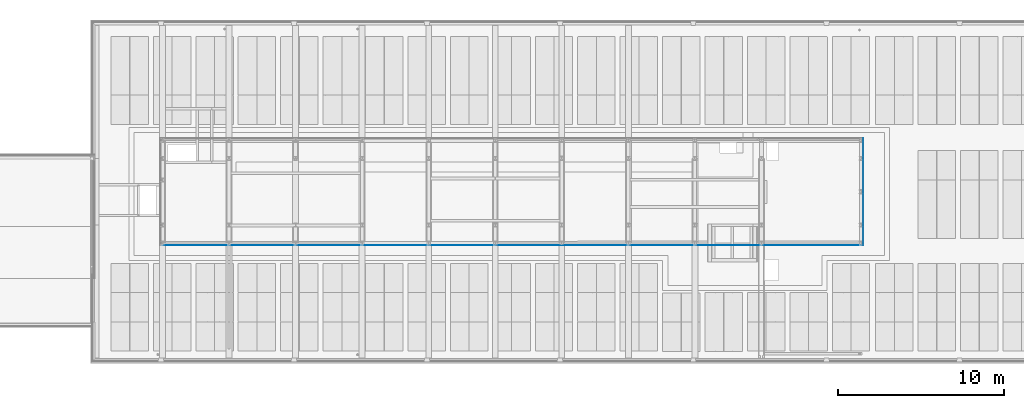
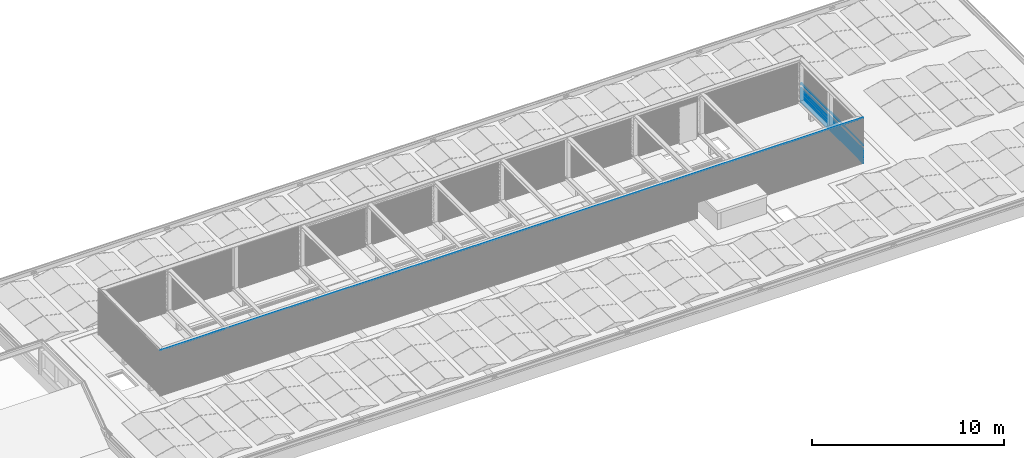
# One storey, part 37 of 63: 14 building element parts, 1 opening, 2 elements without a shape of their own.
"""IFC2X3 building model written with IfcOpenShell, lengths in millimetres."""

from ifc_helpers import new_model, entity, si_unit, converted_unit, derived_unit, money_unit, direction, frame, origin_with_axes, place, context, subcontext, project, spatial, faceted_brep, material, type_object, element, aggregate, save


model = new_model("IFC2X3")

# Units and contexts
model_context = context("Model", 3, precision=0.01, world=origin_with_axes(), true_north=direction((0.0, 1.0)))
body_context = subcontext(model_context, "Body", "Model", "MODEL_VIEW")
ifc_project = project(units=[si_unit("LENGTHUNIT", "METRE", prefix="MILLI"), si_unit("AREAUNIT", "SQUARE_METRE"), si_unit("VOLUMEUNIT", "CUBIC_METRE"), converted_unit("PLANEANGLEUNIT", "DEGREE", entity("IfcPlaneAngleMeasure", 0.0174532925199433), si_unit("PLANEANGLEUNIT", "RADIAN"), dimensions=[0, 0, 0, 0, 0, 0, 0]), money_unit("EUR"), converted_unit("TIMEUNIT", "Year", entity("IfcTimeMeasure", 31557600.0), si_unit("TIMEUNIT", "SECOND"), dimensions=[0, 0, 1, 0, 0, 0, 0]), si_unit("MASSUNIT", "GRAM", prefix="KILO"), si_unit("THERMODYNAMICTEMPERATUREUNIT", "DEGREE_CELSIUS"), si_unit("LUMINOUSINTENSITYUNIT", "LUMEN"), si_unit("ENERGYUNIT", "JOULE", prefix="MEGA"), derived_unit("THERMALCONDUCTANCEUNIT", [(si_unit("POWERUNIT", "WATT"), 1), (si_unit("LENGTHUNIT", "METRE"), -1), (si_unit("THERMODYNAMICTEMPERATUREUNIT", "KELVIN"), -1)]), derived_unit("SPECIFICHEATCAPACITYUNIT", [(si_unit("ENERGYUNIT", "JOULE"), 1), (si_unit("MASSUNIT", "GRAM", prefix="KILO"), -1), (si_unit("THERMODYNAMICTEMPERATUREUNIT", "KELVIN"), -1)]), derived_unit("MASSDENSITYUNIT", [(si_unit("MASSUNIT", "GRAM", prefix="KILO"), 1), (si_unit("VOLUMEUNIT", "CUBIC_METRE"), -1)])], contexts=[model_context])

# Site, building, storey
site_placement = place(None, origin_with_axes())
site = spatial("IfcSite", under=ifc_project, at=site_placement, Name="<site naam>", CompositionType="ELEMENT")
building_placement = place(site_placement, origin_with_axes())
building = spatial("IfcBuilding", under=site, at=building_placement, Name="<Naam gebouw>", CompositionType="ELEMENT")
storey_placement = place(building_placement, frame((0.0, 0.0, 12770.0), z_axis=(0.0, 0.0, 1.0), x_axis=(1.0, 0.0, 0.0)))
storey = spatial("IfcBuildingStorey", under=building, at=storey_placement, Name="04 4e verdieping", CompositionType="ELEMENT", Elevation=12770.0)

# Wall, opening, building element part
wall_type = type_object("IfcWallType", Name="Gevelbeplating golf 18 x 2900", PredefinedType="NOTDEFINED")
wall_1_placement = place(storey_placement, frame((15871.99992141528, 6781.999921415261, 299.9552842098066), z_axis=(0.0, 0.0, 1.0), x_axis=(1.0, 0.0, 0.0)))
wall_1 = element("IfcWall", 1, at=wall_1_placement, inside=storey, type_object=wall_type, Name="47_Binnenwand_Gevelbeplating")
opening_placement = place(wall_1_placement, frame((-15871.99992141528, -6781.999921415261, -13069.95528420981), z_axis=(0.0, 0.0, 1.0), x_axis=(1.0, 0.0, 0.0)))
element("IfcOpeningElement", 2, at=opening_placement, cuts=wall_1, Name="47_Opening_", context=body_context, shape_type="Brep", body=[
    faceted_brep([(48150.00001112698, 6763.99976424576, 12770.0), (48150.00001112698, 6763.99976424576, 14059.65145375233), (48150.00001112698, 6818.000000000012, 14059.65145375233), (48150.00001112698, 6818.000000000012, 12770.0), (51850.00001112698, 6763.99976424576, 12770.0), (51850.00001112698, 6763.99976424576, 14059.65145375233), (51850.00001112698, 6818.000000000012, 14059.65145375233), (51850.00001112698, 6818.000000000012, 12770.0)], [[[0, 1, 2, 3]], [[0, 4, 5, 1]], [[1, 5, 6, 2]], [[3, 2, 6, 7]], [[4, 0, 3, 7]], [[5, 4, 7, 6]]]),
])
ifc_material = material(Name="gevelafwerking type 3 - Aluminium RAL1036")
building_element_part_1_placement = place(wall_1_placement, origin_with_axes())
building_element_part_1 = element("IfcBuildingElementPart", 3, at=building_element_part_1_placement, material=ifc_material, Name="gevelafwerking type 3 - Aluminium RAL1036", context=body_context, shape_type="Brep", body=[
    faceted_brep([(42239.00027300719, 16.99991903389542, 2887.99998211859), (16.9998841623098, 16.99991903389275, 2887.99998211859), (16.9998841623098, 17.99992141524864, 2887.99998211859), (42239.00027300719, 17.99992141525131, 2887.99998211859), (42242.02378557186, 13.97637062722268, 2900.0), (13.97637159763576, 13.97637062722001, 2900.0), (13.97637159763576, 14.97643081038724, 2900.0), (42242.02378557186, 14.97643081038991, 2900.0)], [[[0, 1, 2, 3]], [[4, 5, 1, 0]], [[5, 6, 2, 1]], [[3, 2, 6, 7]], [[0, 3, 7, 4]], [[7, 6, 5, 4]]]),
])
aggregate(wall_1, [building_element_part_1])

# Wall, building element parts
wall_2_placement = place(storey_placement, frame((58128.00007858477, 6781.999921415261, 299.9552842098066), z_axis=(0.0, 0.0, 1.0), x_axis=(0.0, 1.0, 0.0)))
wall_2 = element("IfcWall", 4, at=wall_2_placement, inside=storey, type_object=wall_type, Name="47_Binnenwand_Gevelbeplating")
building_element_part_2_placement = place(wall_2_placement, origin_with_axes())
building_element_part_2 = element("IfcBuildingElementPart", 5, at=building_element_part_2_placement, material=ifc_material, Name="gevelafwerking type 3 - Aluminium RAL1036", context=body_context, shape_type="Brep", body=[
    faceted_brep([(1.000000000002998, 0.9999999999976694, 38.00000000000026), (1.000000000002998, 0.0, 38.00000000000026), (6436.000180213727, 0.0, 38.00001341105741), (6436.000180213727, 0.9999999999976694, 38.00001341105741), (3.116478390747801, 2.188229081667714, 27.8876744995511), (3.116478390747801, 3.116478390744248, 27.8876744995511), (3.340126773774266, 2.257358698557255, 27.56821013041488), (6433.742841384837, 2.257358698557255, 27.56821013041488), (6433.742841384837, 3.340126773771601, 27.56821013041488), (6433.81197030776, 3.116478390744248, 27.8876744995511), (9.041583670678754, 9.041583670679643, 19.42412115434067), (9.041583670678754, 8.209548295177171, 19.42412115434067), (9.398125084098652, 8.555252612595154, 18.95111073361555), (6427.444919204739, 8.555252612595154, 18.95111073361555), (6427.444919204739, 9.398125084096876, 18.95111073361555), (6427.790625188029, 9.041583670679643, 19.42412115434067), (15.62926287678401, 15.62926287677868, 10.68448868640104), (15.62926287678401, 14.54423229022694, 10.68448868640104), (15.70000052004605, 14.7751970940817, 10.36568676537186), (6421.224997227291, 14.7751970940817, 10.36568676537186), (6421.224997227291, 15.70000052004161, 10.36568676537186), (6421.455961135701, 15.62926287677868, 10.68448868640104), (18.00000000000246, 18.00000000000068, 0.0), (18.00000000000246, 16.99999761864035, 0.0), (6419.000198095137, 16.99999761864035, 0.0), (6419.000198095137, 18.00000000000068, 0.0)], [[[0, 1, 2, 3]], [[4, 1, 0, 5]], [[4, 6, 7, 2, 1]], [[3, 2, 7, 8, 9]], [[5, 0, 3, 9]], [[6, 4, 5, 10, 11]], [[11, 12, 13, 7, 6]], [[8, 7, 13, 14, 15]], [[10, 5, 9, 8, 15]], [[12, 11, 10, 16, 17]], [[17, 18, 19, 13, 12]], [[14, 13, 19, 20, 21]], [[16, 10, 15, 14, 21]], [[18, 17, 16, 22, 23]], [[18, 23, 24, 19]], [[20, 19, 24, 25]], [[22, 16, 21, 20, 25]], [[23, 22, 25, 24]]]),
])
building_element_part_3_placement = place(wall_2_placement, origin_with_axes())
building_element_part_3 = element("IfcBuildingElementPart", 6, at=building_element_part_3_placement, material=ifc_material, Name="gevelafwerking type 3 - Aluminium RAL1036", context=body_context, shape_type="Brep", body=[
    faceted_brep([(0.9999952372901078, 0.999995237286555, 189.9999999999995), (0.9999952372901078, -4.762711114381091e-06, 189.9999999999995), (6436.000175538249, -4.762711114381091e-06, 189.9999806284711), (6436.000175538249, 0.999995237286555, 189.9999806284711), (3.116473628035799, 2.188226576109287, 179.8876744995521), (3.116473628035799, 3.116473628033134, 179.8876744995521), (3.340114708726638, 2.25735393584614, 179.5682205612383), (6433.742841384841, 2.25735393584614, 179.5682205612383), (6433.742841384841, 3.340114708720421, 179.5682205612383), (6433.811972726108, 3.116473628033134, 179.8876744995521), (9.04157890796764, 8.209551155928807, 171.4241211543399), (9.04157890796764, 9.041578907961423, 171.4241211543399), (9.39811245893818, 8.55524784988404, 170.9511211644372), (6427.444919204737, 8.55524784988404, 170.9511211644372), (6427.790617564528, 9.041578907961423, 171.4241211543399), (6427.444919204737, 9.398112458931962, 170.9511211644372), (15.62925811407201, 15.62925811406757, 162.6844886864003), (15.62925811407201, 14.54423508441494, 162.6844886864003), (15.69999344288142, 14.77519233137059, 162.3656971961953), (6421.224997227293, 14.77519233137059, 162.3656971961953), (6421.455953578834, 15.62925811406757, 162.6844886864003), (6421.224997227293, 15.69999344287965, 162.3656971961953), (17.99999523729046, 17.99999523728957, 151.9999999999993), (17.99999523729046, 16.99999285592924, 151.9999999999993), (6419.000198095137, 16.99999285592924, 152.0000104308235), (6419.000198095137, 17.99999523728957, 152.0000104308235)], [[[0, 1, 2, 3]], [[4, 1, 0, 5]], [[4, 6, 7, 2, 1]], [[8, 9, 3, 2, 7]], [[5, 0, 3, 9]], [[10, 6, 4, 5, 11]], [[10, 12, 13, 7, 6]], [[11, 5, 9, 8, 14]], [[15, 14, 8, 7, 13]], [[12, 10, 11, 16, 17]], [[17, 18, 19, 13, 12]], [[16, 11, 14, 15, 20]], [[21, 20, 15, 13, 19]], [[18, 17, 16, 22, 23]], [[18, 23, 24, 19]], [[22, 16, 20, 21, 25]], [[24, 25, 21, 19]], [[23, 22, 25, 24]]]),
])
building_element_part_4_placement = place(wall_2_placement, origin_with_axes())
building_element_part_4 = element("IfcBuildingElementPart", 7, at=building_element_part_4_placement, material=ifc_material, Name="gevelafwerking type 3 - Aluminium RAL1036", context=body_context, shape_type="Brep", body=[
    faceted_brep([(0.9999928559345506, 0.9999928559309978, 266.0), (0.9999928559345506, -7.144066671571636e-06, 266.0), (6436.000180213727, -7.144066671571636e-06, 266.0000074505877), (6436.000180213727, 0.9999928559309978, 266.0000074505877), (3.116471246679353, 2.188220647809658, 255.8876744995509), (3.116471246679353, 3.116471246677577, 255.8876744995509), (3.340123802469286, 2.257351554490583, 255.5682041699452), (6433.742841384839, 2.257351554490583, 255.5682041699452), (6433.742841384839, 3.340123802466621, 255.5682041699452), (6433.811971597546, 3.116471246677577, 255.8876744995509), (9.041576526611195, 9.041576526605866, 247.4241211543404), (9.041576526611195, 8.209536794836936, 247.4241211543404), (9.398122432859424, 8.555245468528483, 246.9511047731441), (6427.444962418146, 8.555245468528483, 246.9511047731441), (6427.444962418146, 9.398122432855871, 246.9511047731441), (6427.790670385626, 9.041576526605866, 247.4241211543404), (15.62925573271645, 15.62925573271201, 238.6844886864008), (15.62925573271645, 14.54422082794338, 238.6844886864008), (15.69999469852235, 14.77518995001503, 238.3656808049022), (6421.224997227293, 14.77518995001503, 238.3656808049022), (6421.224997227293, 15.69999469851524, 238.3656808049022), (6421.455967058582, 15.62925573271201, 238.6844886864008), (17.99999285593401, 17.99999285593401, 227.9999999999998), (17.99999285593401, 16.99999047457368, 227.9999999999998), (6419.000198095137, 16.99999047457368, 227.9999940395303), (6419.000198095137, 17.99999285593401, 227.9999940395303)], [[[0, 1, 2, 3]], [[4, 1, 0, 5]], [[4, 6, 7, 2, 1]], [[3, 2, 7, 8, 9]], [[5, 0, 3, 9]], [[6, 4, 5, 10, 11]], [[11, 12, 13, 7, 6]], [[8, 7, 13, 14, 15]], [[10, 5, 9, 8, 15]], [[12, 11, 10, 16, 17]], [[17, 18, 19, 13, 12]], [[14, 13, 19, 20, 21]], [[16, 10, 15, 14, 21]], [[18, 17, 16, 22, 23]], [[18, 23, 24, 19]], [[20, 19, 24, 25]], [[22, 16, 21, 20, 25]], [[23, 22, 25, 24]]]),
])
building_element_part_5_placement = place(wall_2_placement, origin_with_axes())
building_element_part_5 = element("IfcBuildingElementPart", 8, at=building_element_part_5_placement, material=ifc_material, Name="gevelafwerking type 3 - Aluminium RAL1036", context=body_context, shape_type="Brep", body=[
    faceted_brep([(0.9999976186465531, 0.9999976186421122, 114.0000000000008), (0.9999976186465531, -2.381355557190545e-06, 114.0000000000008), (6436.000180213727, -2.381355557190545e-06, 113.9999970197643), (6436.000180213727, 0.9999976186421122, 113.9999970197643), (3.116476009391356, 2.188223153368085, 103.8876744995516), (3.116476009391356, 3.116476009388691, 103.8876744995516), (3.340135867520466, 2.257356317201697, 103.5681937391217), (6433.742841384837, 2.257356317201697, 103.5681937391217), (6433.742841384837, 3.340135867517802, 103.5681937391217), (6433.811973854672, 3.116476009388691, 103.8876744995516), (9.041581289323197, 9.041581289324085, 95.4241211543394), (9.041581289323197, 8.2095339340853, 95.4241211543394), (9.398135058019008, 8.555250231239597, 94.9510943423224), (6427.444919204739, 8.555250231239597, 94.9510943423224), (6427.444919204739, 9.398135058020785, 94.9510943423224), (6427.790637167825, 9.041581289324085, 95.4241211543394), (15.62926049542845, 15.62926049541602, 86.68448868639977), (15.62926049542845, 14.54421803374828, 86.68448868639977), (15.70000177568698, 14.77519471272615, 86.36567037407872), (6421.224997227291, 14.77519471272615, 86.36567037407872), (6421.224997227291, 15.70000177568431, 86.36567037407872), (6421.455973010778, 15.62926049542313, 86.68448868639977), (17.9999976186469, 17.99999761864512, 76.00000000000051), (17.9999976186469, 16.99999523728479, 76.00000000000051), (6419.000198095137, 16.99999523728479, 75.99998360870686), (6419.000198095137, 17.99999761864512, 75.99998360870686)], [[[0, 1, 2, 3]], [[4, 1, 0, 5]], [[4, 6, 7, 2, 1]], [[3, 2, 7, 8, 9]], [[5, 0, 3, 9]], [[6, 4, 5, 10, 11]], [[11, 12, 13, 7, 6]], [[8, 7, 13, 14, 15]], [[10, 5, 9, 8, 15]], [[12, 11, 10, 16, 17]], [[17, 18, 19, 13, 12]], [[14, 13, 19, 20, 21]], [[16, 10, 15, 14, 21]], [[18, 17, 16, 22, 23]], [[18, 23, 24, 19]], [[20, 19, 24, 25]], [[22, 16, 21, 20, 25]], [[23, 22, 25, 24]]]),
])
building_element_part_6_placement = place(wall_2_placement, origin_with_axes())
building_element_part_6 = element("IfcBuildingElementPart", 9, at=building_element_part_6_placement, material=ifc_material, Name="gevelafwerking type 3 - Aluminium RAL1036", context=body_context, shape_type="Brep", body=[
    faceted_brep([(0.999988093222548, 0.9999880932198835, 493.9999999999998), (0.999988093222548, -1.190677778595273e-05, 493.9999999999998), (6436.000180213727, -1.190677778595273e-05, 494.0000014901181), (6436.000180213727, 0.9999880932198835, 494.0000014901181), (3.116466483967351, 2.188214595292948, 483.8876744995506), (3.116466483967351, 3.116466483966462, 483.8876744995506), (3.34012321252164, 2.257346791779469, 483.5681982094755), (6433.742841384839, 2.257346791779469, 483.5681982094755), (6433.742841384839, 3.340123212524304, 483.5681982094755), (6433.811972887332, 3.116466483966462, 483.8876744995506), (9.041571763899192, 9.041571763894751, 475.4241211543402), (9.041571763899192, 8.209527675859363, 475.4241211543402), (9.398122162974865, 8.555240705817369, 474.9510988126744), (6427.444962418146, 8.555240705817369, 474.9510988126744), (6427.444962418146, 9.398122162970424, 474.9510988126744), (6427.790674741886, 9.041571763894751, 475.4241211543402), (15.62925097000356, 15.6292509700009, 466.6844886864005), (15.62925097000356, 14.54421174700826, 466.6844886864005), (15.6999912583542, 14.77518518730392, 466.3656748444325), (6421.224997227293, 14.77518518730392, 466.3656748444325), (6421.224997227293, 15.69999125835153, 466.3656748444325), (6421.45597137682, 15.6292509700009, 466.6844886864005), (17.99998809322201, 17.9999880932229, 455.9999999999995), (17.99998809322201, 16.99998571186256, 455.9999999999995), (6419.000198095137, 16.99998571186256, 455.9999880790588), (6419.000198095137, 17.9999880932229, 455.9999880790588)], [[[0, 1, 2, 3]], [[4, 1, 0, 5]], [[4, 6, 7, 2, 1]], [[3, 2, 7, 8, 9]], [[5, 0, 3, 9]], [[6, 4, 5, 10, 11]], [[11, 12, 13, 7, 6]], [[8, 7, 13, 14, 15]], [[10, 5, 9, 8, 15]], [[12, 11, 10, 16, 17]], [[17, 18, 19, 13, 12]], [[14, 13, 19, 20, 21]], [[16, 10, 15, 14, 21]], [[18, 17, 16, 22, 23]], [[18, 23, 24, 19]], [[20, 19, 24, 25]], [[22, 16, 21, 20, 25]], [[23, 22, 25, 24]]]),
])
building_element_part_7_placement = place(wall_2_placement, origin_with_axes())
building_element_part_7 = element("IfcBuildingElementPart", 10, at=building_element_part_7_placement, material=ifc_material, Name="gevelafwerking type 3 - Aluminium RAL1036", context=body_context, shape_type="Brep", body=[
    faceted_brep([(0.9999904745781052, 0.9999904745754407, 342.0000000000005), (0.9999904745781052, -9.525422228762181e-06, 342.0000000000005), (6436.000175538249, -9.525422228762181e-06, 341.9999910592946), (6436.000175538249, 0.9999904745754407, 341.9999910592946), (3.116468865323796, 2.188224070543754, 331.8876744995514), (3.116468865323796, 3.11646886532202, 331.8876744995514), (3.340102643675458, 2.257349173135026, 331.56823099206), (6433.742841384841, 2.257349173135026, 331.56823099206), (6433.742841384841, 3.340102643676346, 331.56823099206), (6433.811970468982, 3.11646886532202, 331.8876744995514), (9.04157414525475, 8.209522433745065, 323.4241211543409), (9.04157414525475, 9.041574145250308, 323.4241211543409), (9.39813240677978, 8.555243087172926, 322.9510883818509), (6427.444962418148, 8.555243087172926, 322.9510883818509), (6427.790680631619, 9.041574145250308, 323.4241211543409), (6427.444962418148, 9.398132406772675, 322.9510883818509), (15.62925335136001, 15.62925335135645, 314.6844886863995), (15.62925335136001, 14.54420657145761, 314.6844886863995), (15.69999595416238, 14.77518756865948, 314.365664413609), (6421.224992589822, 14.77518756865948, 314.365664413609), (6421.455978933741, 15.62925335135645, 314.6844886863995), (6421.224992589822, 15.69999595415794, 314.365664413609), (17.99999047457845, 17.99999047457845, 304.0000000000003), (17.99999047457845, 16.99998809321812, 304.0000000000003), (6419.000198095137, 16.99998809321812, 304.0000208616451), (6419.000198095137, 17.99999047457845, 304.0000208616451)], [[[0, 1, 2, 3]], [[4, 1, 0, 5]], [[4, 6, 7, 2, 1]], [[8, 9, 3, 2, 7]], [[5, 0, 3, 9]], [[10, 6, 4, 5, 11]], [[10, 12, 13, 7, 6]], [[11, 5, 9, 8, 14]], [[15, 14, 8, 7, 13]], [[12, 10, 11, 16, 17]], [[17, 18, 19, 13, 12]], [[16, 11, 14, 15, 20]], [[21, 20, 15, 13, 19]], [[18, 17, 16, 22, 23]], [[18, 23, 24, 19]], [[22, 16, 20, 21, 25]], [[24, 25, 21, 19]], [[23, 22, 25, 24]]]),
])
building_element_part_8_placement = place(wall_2_placement, origin_with_axes())
building_element_part_8 = element("IfcBuildingElementPart", 11, at=building_element_part_8_placement, material=ifc_material, Name="gevelafwerking type 3 - Aluminium RAL1036", context=body_context, shape_type="Brep", body=[
    faceted_brep([(0.9999857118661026, 0.9999857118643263, 570.0000000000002), (0.9999857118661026, -1.428813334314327e-05, 570.0000000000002), (6436.000223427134, -1.428813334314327e-05, 569.9999850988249), (6436.000223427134, 0.9999857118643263, 569.9999850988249), (3.116464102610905, 2.188218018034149, 559.8876744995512), (3.116464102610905, 3.116464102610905, 559.8876744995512), (3.340102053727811, 2.257344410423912, 559.5682250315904), (6433.742841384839, 2.257344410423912, 559.5682250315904), (6433.742841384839, 3.340102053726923, 559.5682250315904), (6433.811968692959, 3.116464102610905, 559.8876744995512), (9.041569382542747, 9.041569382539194, 551.4241211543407), (9.041569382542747, 8.209544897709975, 551.4241211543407), (9.39809956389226, 8.555238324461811, 550.9511256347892), (6427.444962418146, 8.555238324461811, 550.9511256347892), (6427.444962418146, 9.398099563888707, 550.9511256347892), (6427.790655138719, 9.041569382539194, 551.4241211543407), (15.629248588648, 15.62924858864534, 542.6844886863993), (15.629248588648, 14.54422879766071, 542.6844886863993), (15.69998292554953, 14.77518280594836, 542.3657016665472), (6421.224997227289, 14.77518280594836, 542.3657016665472), (6421.224997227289, 15.69998292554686, 542.3657016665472), (6421.455951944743, 15.62924858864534, 542.6844886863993), (17.99998571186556, 17.99998571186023, 532.0), (17.99998571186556, 16.99998333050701, 532.0), (6419.000198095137, 16.99998333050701, 532.0000149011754), (6419.000198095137, 17.99998571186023, 532.0000149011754)], [[[0, 1, 2, 3]], [[4, 1, 0, 5]], [[4, 6, 7, 2, 1]], [[3, 2, 7, 8, 9]], [[5, 0, 3, 9]], [[6, 4, 5, 10, 11]], [[11, 12, 13, 7, 6]], [[8, 7, 13, 14, 15]], [[10, 5, 9, 8, 15]], [[12, 11, 10, 16, 17]], [[17, 18, 19, 13, 12]], [[14, 13, 19, 20, 21]], [[16, 10, 15, 14, 21]], [[18, 17, 16, 22, 23]], [[18, 23, 24, 19]], [[20, 19, 24, 25]], [[22, 16, 21, 20, 25]], [[23, 22, 25, 24]]]),
])
building_element_part_9_placement = place(wall_2_placement, origin_with_axes())
building_element_part_9 = element("IfcBuildingElementPart", 12, at=building_element_part_9_placement, material=ifc_material, Name="gevelafwerking type 3 - Aluminium RAL1036", context=body_context, shape_type="Brep", body=[
    faceted_brep([(0.9999809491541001, 0.9999809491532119, 721.9999999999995), (0.9999809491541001, -1.905085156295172e-05, 721.9999999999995), (6436.000223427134, -1.905085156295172e-05, 721.9999955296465), (6436.000223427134, 0.9999809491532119, 721.9999955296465), (3.116459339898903, 2.18820616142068, 711.8876744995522), (3.116459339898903, 3.116459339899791, 711.8876744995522), (3.340120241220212, 2.257339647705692, 711.568192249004), (6433.742836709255, 2.257339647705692, 711.568192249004), (6433.742836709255, 3.340120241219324, 711.568192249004), (6433.81196643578, 3.116459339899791, 711.8876744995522), (9.041564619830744, 8.209516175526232, 703.4241211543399), (9.041564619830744, 9.04156461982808, 703.4241211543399), (9.398119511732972, 8.555233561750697, 702.9510928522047), (6427.444962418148, 8.555233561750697, 702.9510928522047), (6427.790674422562, 9.04156461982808, 703.4241211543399), (6427.444962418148, 9.39811951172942, 702.9510928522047), (15.629243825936, 15.62924382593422, 694.6844886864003), (15.629243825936, 14.54420028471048, 694.6844886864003), (15.69998543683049, 14.77517804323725, 694.365668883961), (6421.224997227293, 14.77517804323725, 694.365668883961), (6421.455975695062, 15.62924382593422, 694.6844886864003), (6421.224997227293, 15.69998543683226, 694.365668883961), (17.99998094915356, 17.99998094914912, 683.9999999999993), (17.99998094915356, 16.99997856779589, 683.9999999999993), (6419.000198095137, 16.99997856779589, 683.9999821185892), (6419.000198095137, 17.99998094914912, 683.9999821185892)], [[[0, 1, 2, 3]], [[4, 1, 0, 5]], [[4, 6, 7, 2, 1]], [[8, 9, 3, 2, 7]], [[5, 0, 3, 9]], [[10, 6, 4, 5, 11]], [[10, 12, 13, 7, 6]], [[11, 5, 9, 8, 14]], [[15, 14, 8, 7, 13]], [[12, 10, 11, 16, 17]], [[17, 18, 19, 13, 12]], [[16, 11, 14, 15, 20]], [[21, 20, 15, 13, 19]], [[18, 17, 16, 22, 23]], [[18, 23, 24, 19]], [[22, 16, 20, 21, 25]], [[24, 25, 21, 19]], [[23, 22, 25, 24]]]),
])
building_element_part_10_placement = place(wall_2_placement, origin_with_axes())
building_element_part_10 = element("IfcBuildingElementPart", 13, at=building_element_part_10_placement, material=ifc_material, Name="gevelafwerking type 3 - Aluminium RAL1036", context=body_context, shape_type="Brep", body=[
    faceted_brep([(0.9999904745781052, 0.9999904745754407, 417.9999999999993), (0.9999904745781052, -9.525422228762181e-06, 417.9999999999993), (6436.000180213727, -9.525422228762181e-06, 418.0000178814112), (6436.000180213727, 0.9999904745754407, 418.0000178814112), (3.116468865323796, 2.188220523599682, 407.8876744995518), (3.116468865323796, 3.11646886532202, 407.8876744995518), (3.340114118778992, 2.257349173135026, 407.5682146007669), (6433.742841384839, 2.257349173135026, 407.5682146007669), (6433.742841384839, 3.340114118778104, 407.5682146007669), (6433.81196934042, 3.11646886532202, 407.8876744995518), (9.04157414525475, 9.041574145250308, 399.4241211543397), (9.04157414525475, 8.209542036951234, 399.4241211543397), (9.398112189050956, 8.555243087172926, 398.9511152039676), (6427.444962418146, 8.555243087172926, 398.9511152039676), (6427.444962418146, 9.398112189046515, 398.9511152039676), (6427.790662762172, 9.041574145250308, 399.4241211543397), (15.62925335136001, 15.62925335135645, 390.6844886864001), (15.62925335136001, 14.54422600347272, 390.6844886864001), (15.69999000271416, 14.77518756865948, 390.3656912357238), (6421.224997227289, 14.77518756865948, 390.3656912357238), (6421.224997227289, 15.69999000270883, 390.3656912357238), (6421.455959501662, 15.62925335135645, 390.6844886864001), (17.99999047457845, 17.99999047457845, 380.0000000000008), (17.99999047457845, 16.99998809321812, 380.0000000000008), (6419.000198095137, 16.99998809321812, 380.000004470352), (6419.000198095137, 17.99999047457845, 380.000004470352)], [[[0, 1, 2, 3]], [[4, 1, 0, 5]], [[4, 6, 7, 2, 1]], [[3, 2, 7, 8, 9]], [[5, 0, 3, 9]], [[6, 4, 5, 10, 11]], [[11, 12, 13, 7, 6]], [[8, 7, 13, 14, 15]], [[10, 5, 9, 8, 15]], [[12, 11, 10, 16, 17]], [[17, 18, 19, 13, 12]], [[14, 13, 19, 20, 21]], [[16, 10, 15, 14, 21]], [[18, 17, 16, 22, 23]], [[18, 23, 24, 19]], [[20, 19, 24, 25]], [[22, 16, 21, 20, 25]], [[23, 22, 25, 24]]]),
])
building_element_part_11_placement = place(wall_2_placement, origin_with_axes())
building_element_part_11 = element("IfcBuildingElementPart", 14, at=building_element_part_11_placement, material=ifc_material, Name="gevelafwerking type 3 - Aluminium RAL1036", context=body_context, shape_type="Brep", body=[
    faceted_brep([(0.9999785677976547, 0.9999785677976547, 798.0), (0.9999785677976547, -2.143220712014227e-05, 798.0), (6436.000223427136, -2.143220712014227e-05, 797.9999791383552), (6436.000223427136, 0.9999785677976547, 797.9999791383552), (3.116456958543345, 2.188209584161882, 787.8876744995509), (3.116456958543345, 3.116456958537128, 787.8876744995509), (3.34009908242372, 2.257337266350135, 787.5682190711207), (6433.742841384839, 2.257337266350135, 787.5682190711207), (6433.742841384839, 3.340099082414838, 787.5682190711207), (6433.811969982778, 3.116456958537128, 787.8876744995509), (9.041562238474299, 9.041562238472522, 779.4241211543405), (9.041562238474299, 8.209533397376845, 779.4241211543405), (9.398096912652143, 8.55523118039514, 778.9511196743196), (6427.444962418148, 8.55523118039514, 778.9511196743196), (6427.444962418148, 9.398096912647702, 778.9511196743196), (6427.790659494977, 9.041562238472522, 779.4241211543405), (15.62924144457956, 15.62924144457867, 770.6844886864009), (15.62924144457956, 14.54421733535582, 770.6844886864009), (15.69997710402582, 14.77517566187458, 770.3656957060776), (6421.224997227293, 14.77517566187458, 770.3656957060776), (6421.224997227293, 15.6999771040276, 770.3656957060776), (6421.455956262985, 15.62924144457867, 770.6844886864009), (17.999978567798, 17.99997856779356, 759.9999999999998), (17.999978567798, 16.99997618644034, 759.9999999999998), (6419.000198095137, 16.99997618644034, 760.0000089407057), (6419.000198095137, 17.99997856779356, 760.0000089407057)], [[[0, 1, 2, 3]], [[4, 1, 0, 5]], [[4, 6, 7, 2, 1]], [[3, 2, 7, 8, 9]], [[5, 0, 3, 9]], [[6, 4, 5, 10, 11]], [[11, 12, 13, 7, 6]], [[8, 7, 13, 14, 15]], [[10, 5, 9, 8, 15]], [[12, 11, 10, 16, 17]], [[17, 18, 19, 13, 12]], [[14, 13, 19, 20, 21]], [[16, 10, 15, 14, 21]], [[18, 17, 16, 22, 23]], [[18, 23, 24, 19]], [[20, 19, 24, 25]], [[22, 16, 21, 20, 25]], [[23, 22, 25, 24]]]),
])
building_element_part_12_placement = place(wall_2_placement, origin_with_axes())
building_element_part_12 = element("IfcBuildingElementPart", 15, at=building_element_part_12_placement, material=ifc_material, Name="gevelafwerking type 3 - Aluminium RAL1036", context=body_context, shape_type="Brep", body=[
    faceted_brep([(0.9999761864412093, 0.9999761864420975, 874.0000000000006), (0.9999761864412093, -2.381356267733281e-05, 874.0000000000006), (6436.000223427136, -2.381356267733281e-05, 874.00000596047), (6436.000223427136, 0.9999761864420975, 874.00000596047), (3.1164545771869, 2.188203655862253, 863.8876744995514), (3.1164545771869, 3.116454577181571, 863.8876744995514), (3.34010817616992, 2.257334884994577, 863.5682026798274), (6433.742836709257, 2.257334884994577, 863.5682026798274), (6433.742836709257, 3.340108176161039, 863.5682026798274), (6433.811964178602, 3.116454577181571, 863.8876744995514), (9.041559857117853, 8.209519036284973, 855.4241211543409), (9.041559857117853, 9.041559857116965, 855.4241211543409), (9.3981068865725, 8.555228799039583, 854.9511032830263), (6427.444962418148, 8.555228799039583, 854.9511032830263), (6427.790666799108, 9.041559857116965, 855.4241211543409), (6427.444962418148, 9.398106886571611, 854.9511032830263), (15.62923906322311, 15.62923906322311, 846.6844886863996), (15.62923906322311, 14.54420307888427, 846.6844886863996), (15.69997835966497, 14.77517328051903, 846.3656793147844), (6421.224997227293, 14.77517328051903, 846.3656793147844), (6421.455968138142, 15.62923906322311, 846.6844886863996), (6421.224997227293, 15.69997835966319, 846.3656793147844), (17.99997618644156, 17.999976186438, 836.0000000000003), (17.99997618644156, 16.99997380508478, 836.0000000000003), (6419.000198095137, 16.99997380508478, 835.9999925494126), (6419.000198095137, 17.999976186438, 835.9999925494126)], [[[0, 1, 2, 3]], [[4, 1, 0, 5]], [[4, 6, 7, 2, 1]], [[8, 9, 3, 2, 7]], [[5, 0, 3, 9]], [[10, 6, 4, 5, 11]], [[10, 12, 13, 7, 6]], [[11, 5, 9, 8, 14]], [[15, 14, 8, 7, 13]], [[12, 10, 11, 16, 17]], [[17, 18, 19, 13, 12]], [[16, 11, 14, 15, 20]], [[21, 20, 15, 13, 19]], [[18, 17, 16, 22, 23]], [[18, 23, 24, 19]], [[22, 16, 20, 21, 25]], [[24, 25, 21, 19]], [[23, 22, 25, 24]]]),
])
building_element_part_13_placement = place(wall_2_placement, origin_with_axes())
building_element_part_13 = element("IfcBuildingElementPart", 16, at=building_element_part_13_placement, material=ifc_material, Name="gevelafwerking type 3 - Aluminium RAL1036", context=body_context, shape_type="Brep", body=[
    faceted_brep([(0.9999833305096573, 0.9999833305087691, 645.999999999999), (0.9999833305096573, -1.666949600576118e-05, 645.999999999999), (6436.000218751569, -1.666949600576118e-05, 646.0000119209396), (6436.000218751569, 0.9999833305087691, 646.0000119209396), (3.116461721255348, 2.18821208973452, 635.8876744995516), (3.116461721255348, 3.116461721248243, 635.8876744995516), (3.340111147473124, 2.257342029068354, 635.5682086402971), (6433.742836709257, 2.257342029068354, 635.5682086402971), (6433.742836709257, 3.340111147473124, 635.5682086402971), (6433.811958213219, 3.116461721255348, 635.8876744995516), (9.041567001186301, 8.209530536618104, 627.4241211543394), (9.041567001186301, 9.041567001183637, 627.4241211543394), (9.39810953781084, 8.555235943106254, 626.9511092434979), (6427.444962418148, 8.555235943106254, 626.9511092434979), (6427.790662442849, 9.041567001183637, 627.4241211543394), (6427.444962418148, 9.39810953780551, 626.9511092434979), (15.62924620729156, 15.62924620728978, 618.6844886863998), (15.62924620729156, 14.54421454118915, 618.6844886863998), (15.69998418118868, 14.7751804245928, 618.3656852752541), (6421.224997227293, 14.7751804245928, 618.3656852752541), (6421.455963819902, 15.62924620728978, 618.6844886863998), (6421.224997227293, 15.69998418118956, 618.3656852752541), (17.99998333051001, 17.99998333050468, 608.0000000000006), (17.99998333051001, 16.99998094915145, 608.0000000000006), (6419.000198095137, 16.99998094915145, 607.9999985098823), (6419.000198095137, 17.99998333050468, 607.9999985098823)], [[[0, 1, 2, 3]], [[4, 1, 0, 5]], [[4, 6, 7, 2, 1]], [[8, 9, 3, 2, 7]], [[5, 0, 3, 9]], [[10, 6, 4, 5, 11]], [[10, 12, 13, 7, 6]], [[11, 5, 9, 8, 14]], [[15, 14, 8, 7, 13]], [[12, 10, 11, 16, 17]], [[17, 18, 19, 13, 12]], [[16, 11, 14, 15, 20]], [[21, 20, 15, 13, 19]], [[18, 17, 16, 22, 23]], [[18, 23, 24, 19]], [[22, 16, 20, 21, 25]], [[24, 25, 21, 19]], [[23, 22, 25, 24]]]),
])
building_element_part_14_placement = place(wall_2_placement, origin_with_axes())
building_element_part_14 = element("IfcBuildingElementPart", 17, at=building_element_part_14_placement, material=ifc_material, Name="gevelafwerking type 3 - Aluminium RAL1036", context=body_context, shape_type="Brep", body=[
    faceted_brep([(0.9999690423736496, 0.9999690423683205, 1177.999999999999), (0.9999690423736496, -3.095762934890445e-05, 1177.999999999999), (6436.000223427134, -3.095762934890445e-05, 1177.999983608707), (6436.000223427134, 0.9999690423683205, 1177.999983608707), (3.116447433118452, 2.188201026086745, 1167.887674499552), (3.116447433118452, 3.116447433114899, 1167.887674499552), (3.340086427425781, 2.257327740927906, 1167.568223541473), (6433.742841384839, 2.257327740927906, 1167.568223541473), (6433.742841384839, 3.34008642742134, 1167.568223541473), (6433.811969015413, 3.116447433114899, 1167.887674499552), (9.041552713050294, 9.041552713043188, 1159.424121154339), (9.041552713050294, 8.209527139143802, 1159.424121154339), (9.398084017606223, 8.555221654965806, 1158.951124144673), (6427.444962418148, 8.555221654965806, 1158.951124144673), (6427.444962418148, 9.398084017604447, 1158.951124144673), (6427.790656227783, 9.041552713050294, 1159.424121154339), (15.62923191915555, 15.62923191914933, 1150.6844886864), (15.62923191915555, 14.5442110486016, 1150.6844886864), (15.69996658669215, 14.77516613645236, 1150.36570017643), (6421.225040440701, 14.77516613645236, 1150.36570017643), (6421.225040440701, 15.69996658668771, 1150.36570017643), (6421.45599463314, 15.62923191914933, 1150.6844886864), (17.99996904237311, 17.99996904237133, 1139.999999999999), (17.99996904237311, 16.99996666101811, 1139.999999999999), (6419.000241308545, 16.99996666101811, 1140.000013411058), (6419.000241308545, 17.99996904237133, 1140.000013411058)], [[[0, 1, 2, 3]], [[4, 1, 0, 5]], [[4, 6, 7, 2, 1]], [[3, 2, 7, 8, 9]], [[5, 0, 3, 9]], [[6, 4, 5, 10, 11]], [[11, 12, 13, 7, 6]], [[8, 7, 13, 14, 15]], [[10, 5, 9, 8, 15]], [[12, 11, 10, 16, 17]], [[17, 18, 19, 13, 12]], [[14, 13, 19, 20, 21]], [[16, 10, 15, 14, 21]], [[18, 17, 16, 22, 23]], [[18, 23, 24, 19]], [[20, 19, 24, 25]], [[22, 16, 21, 20, 25]], [[23, 22, 25, 24]]]),
])
aggregate(wall_2, [building_element_part_2, building_element_part_3, building_element_part_4, building_element_part_5, building_element_part_6, building_element_part_7, building_element_part_8, building_element_part_9, building_element_part_10, building_element_part_11, building_element_part_12, building_element_part_13, building_element_part_14])

save(model, "model.ifc")
